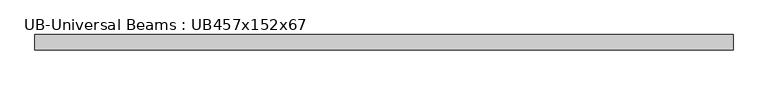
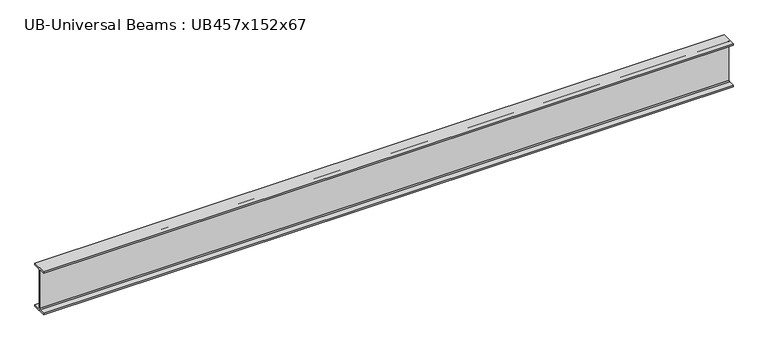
"""IFC4 building model written with IfcOpenShell, lengths in millimetres: beam geometry, UB-Universal Beams : UB457x152x67."""

from ifc_helpers import new_model, si_unit, point, frame, frame_2d, origin, place, context, project, spatial, polyline, circle_curve, trimmed, segment, composite_curve, outline, extrude, source, transform, mapped, element, save


def ub_universal_beams_ub457x152x67_b2f2df74(model_context):
    return source(origin(), model_context, "Body", "SweptSolid", [
        extrude(outline(composite_curve([segment(polyline([(76.9, -214.0), (76.9, -229.0), (-76.9, -229.0), (-76.9, -214.0), (-14.7, -214.0)]), True, "CONTINUOUS"), segment(trimmed(circle_curve(frame_2d((-14.7, -203.8)), 10.2), [point((-14.7, -214.0))], [point((-4.5, -203.8))], True, "CARTESIAN"), True, "CONTINUOUS"), segment(polyline([(-4.5, -203.8), (-4.5, 203.8)]), True, "CONTINUOUS"), segment(trimmed(circle_curve(frame_2d((-14.7, 203.8)), 10.2), [point((-4.5, 203.8))], [point((-14.7, 214.0))], True, "CARTESIAN"), True, "CONTINUOUS"), segment(polyline([(-14.7, 214.0), (-76.9, 214.0), (-76.9, 229.0), (76.9, 229.0), (76.9, 214.0), (14.7, 214.0)]), True, "CONTINUOUS"), segment(trimmed(circle_curve(frame_2d((14.7, 203.8)), 10.2), [point((14.7, 214.0))], [point((4.5, 203.8))], True, "CARTESIAN"), True, "CONTINUOUS"), segment(polyline([(4.5, 203.8), (4.5, -203.8)]), True, "CONTINUOUS"), segment(trimmed(circle_curve(frame_2d((14.7, -203.8)), 10.2), [point((4.5, -203.8))], [point((14.7, -214.0))], True, "CARTESIAN"), True, "CONTINUOUS"), segment(polyline([(14.7, -214.0), (76.9, -214.0)]), True, "CONTINUOUS")], self_intersect=False)), frame((-3479.8, 0.0, 0.0), z_axis=(1.0, 0.0, 0.0), x_axis=(0.0, 1.0, 0.0)), (0.0, 0.0, 1.0), 6959.6),
    ])


if __name__ == "__main__":
    model = new_model("IFC4")
    model_context = context("Model", 3, world=origin())
    ifc_project = project(units=[si_unit("LENGTHUNIT", "METRE", prefix="MILLI")], contexts=[model_context])
    site = spatial("IfcSite", under=ifc_project)
    building = spatial("IfcBuilding", under=site)
    placement = place(None, origin())
    ub_universal_beams_ub457x152x67_shape = ub_universal_beams_ub457x152x67_b2f2df74(model_context)
    element("IfcBeam", 1, ObjectType="UB-Universal Beams : UB457x152x67", at=placement, inside=building, context=model_context, shape_type="MappedRepresentation", body=[
        mapped(ub_universal_beams_ub457x152x67_shape, transform((0.0, 0.0, 0.0), x_axis=(1.0, 0.0, 0.0), y_axis=(0.0, 1.0, 0.0), z_axis=(0.0, 0.0, 1.0))),
    ])
    save(model, "model.ifc")
